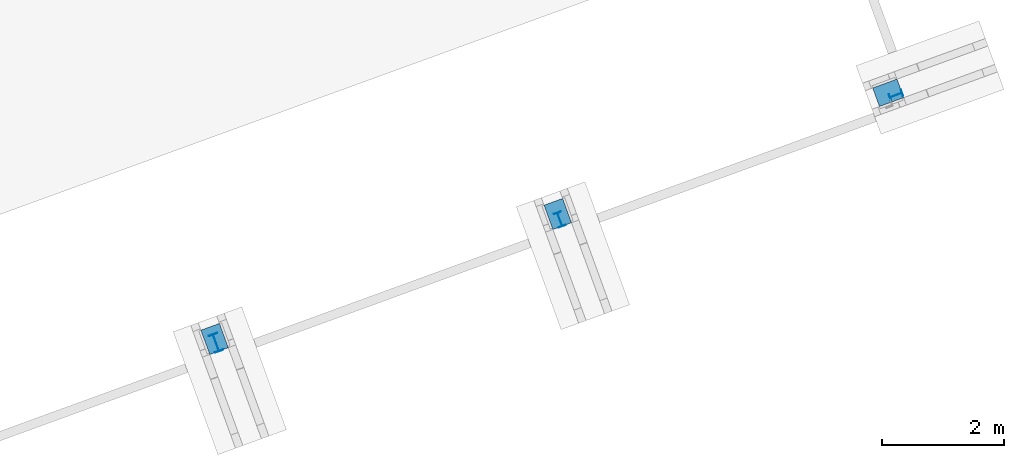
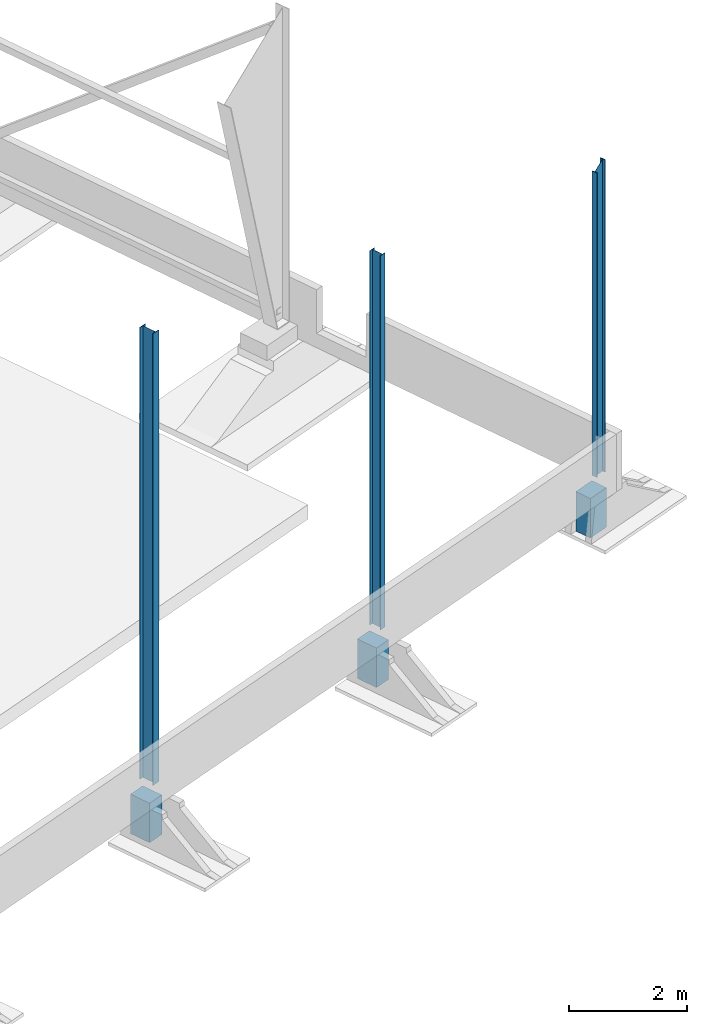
# One storey, part 2 of 20: 6 columns, 1 opening, 6 elements without a shape of their own.
"""IFC4 building model written with IfcOpenShell, lengths in millimetres."""

from ifc_helpers import new_model, si_unit, direction, frame, origin_with_axes, place, context, subcontext, project, spatial, line, indexed_curve, outline, extrude, material, element, aggregate, save


model = new_model("IFC4")

# Units and contexts
model_context = context("Model", 3, precision=0.2, world=frame((203566.813, 116264.779, 0.0), z_axis=(0.0, 0.0, 1.0), x_axis=(1.0, 0.0, 0.0)), true_north=direction((-0.9396138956, -0.3422363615)))
body_context = subcontext(model_context, "Body", "Model", "MODEL_VIEW")
ifc_project = project(units=[si_unit("LENGTHUNIT", "METRE", prefix="MILLI"), si_unit("AREAUNIT", "SQUARE_METRE"), si_unit("VOLUMEUNIT", "CUBIC_METRE"), si_unit("MASSUNIT", "GRAM", prefix="KILO"), si_unit("TIMEUNIT", "SECOND"), si_unit("PLANEANGLEUNIT", "RADIAN"), si_unit("SOLIDANGLEUNIT", "STERADIAN"), si_unit("THERMODYNAMICTEMPERATUREUNIT", "DEGREE_CELSIUS"), si_unit("LUMINOUSINTENSITYUNIT", "LUMEN")], contexts=[model_context])

# Site, building, storey
site_placement = place(None, origin_with_axes())
site = spatial("IfcSite", under=ifc_project, at=site_placement, Name="Nobelprojektet", CompositionType="ELEMENT")
building_placement = place(site_placement, origin_with_axes())
building = spatial("IfcBuilding", under=site, at=building_placement, Name="Hall B", CompositionType="ELEMENT")
storey_placement = place(building_placement, frame((0.0, 0.0, 1000.0), z_axis=(0.0, 0.0, 1.0), x_axis=(1.0, 0.0, 0.0)))
storey = spatial("IfcBuildingStorey", under=building, at=storey_placement, Name="Plan_1", CompositionType="ELEMENT", Elevation=1000.0)

# Assembly, column
assembly_1_placement = place(storey_placement, frame((184055.96429, 125367.21941, 131049.99996), z_axis=(0.3422371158, -0.9396136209, 1.3e-09), x_axis=(0.0, 0.0, 1.0)))
assembly_1 = element("IfcElementAssembly", 1, at=assembly_1_placement, inside=storey, Name="BALK", PredefinedType="NOTDEFINED")
ifc_material_1 = material(Name="C25/30", Category="CONCRETE")
column_1_placement = place(assembly_1_placement, origin_with_axes())
column_1 = element("IfcColumn", 2, at=column_1_placement, material=ifc_material_1, Name="BEF. GRUND", PredefinedType="NOTDEFINED", context=body_context, shape_type="SolidModel", body=[
    extrude(outline(indexed_curve([(-162.0, -212.5), (162.0, -212.5), (162.0, 212.5), (-162.0, 212.5)], segments=[line(1, 2, 3, 4, 1)])), frame((0.0, 0.0, 0.0), z_axis=(-1.0, 0.0, 0.0), x_axis=(0.0, 0.0, 1.0)), (0.0, 0.0, -1.0), 820.0),
])
aggregate(assembly_1, [column_1])

assembly_2_placement = place(storey_placement, frame((178626.93427, 123376.50567, 131049.99996), z_axis=(-0.9396136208, -0.3422371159, 0.0), x_axis=(0.0, 0.0, 1.0)))
assembly_2 = element("IfcElementAssembly", 3, at=assembly_2_placement, inside=storey, Name="BEF. GRUND", PredefinedType="NOTDEFINED")
column_2_placement = place(assembly_2_placement, origin_with_axes())
column_2 = element("IfcColumn", 4, at=column_2_placement, material=ifc_material_1, Name="BEF. GRUND", PredefinedType="NOTDEFINED", context=body_context, shape_type="SolidModel", body=[
    extrude(outline(indexed_curve([(-162.0, -212.5), (162.0, -212.5), (162.0, 212.5), (-162.0, 212.5)], segments=[line(1, 2, 3, 4, 1)])), frame((0.0, 0.0, 0.0), z_axis=(-1.0, 0.0, 0.0), x_axis=(0.0, 0.0, 1.0)), (0.0, 0.0, -1.0), 820.0),
])
aggregate(assembly_2, [column_2])

assembly_3_placement = place(storey_placement, frame((172989.25254, 121323.08297, 131049.99996), z_axis=(-0.9396136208, -0.3422371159, 0.0), x_axis=(0.0, 0.0, 1.0)))
assembly_3 = element("IfcElementAssembly", 5, at=assembly_3_placement, inside=storey, Name="BEF. GRUND", PredefinedType="NOTDEFINED")
column_3_placement = place(assembly_3_placement, origin_with_axes())
column_3 = element("IfcColumn", 6, at=column_3_placement, material=ifc_material_1, Name="BEF. GRUND", PredefinedType="NOTDEFINED", context=body_context, shape_type="SolidModel", body=[
    extrude(outline(indexed_curve([(-162.0, -212.5), (162.0, -212.5), (162.0, 212.5), (-162.0, 212.5)], segments=[line(1, 2, 3, 4, 1)])), frame((0.0, 0.0, 0.0), z_axis=(-1.0, 0.0, 0.0), x_axis=(0.0, 0.0, 1.0)), (0.0, 0.0, -1.0), 820.0),
])
aggregate(assembly_3, [column_3])

assembly_4_placement = place(storey_placement, frame((173012.35678, 121259.64551, 132195.00293), z_axis=(0.9396136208, 0.3422371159, 0.0), x_axis=(0.0, 0.0, 1.0)))
assembly_4 = element("IfcElementAssembly", 7, at=assembly_4_placement, inside=storey, Name="BEF. STOMME", PredefinedType="NOTDEFINED")
ifc_material_2 = material(Name="S355J2", Category="STEEL")
column_4_placement = place(assembly_4_placement, origin_with_axes())
column_4 = element("IfcColumn", 8, at=column_4_placement, material=ifc_material_2, Name="BEF. STOMME", PredefinedType="NOTDEFINED", context=body_context, shape_type="SolidModel", body=[
    extrude(outline(indexed_curve([(-75.0, -150.0), (75.0, -150.0), (75.0, -139.3), (3.55, -139.3), (3.55, 139.3), (75.0, 139.3), (75.0, 150.0), (-75.0, 150.0), (-75.0, 139.3), (-3.55, 139.3), (-3.55, -139.3), (-75.0, -139.3)], segments=[line(1, 2, 3, 4, 5, 6, 7, 8, 9, 10, 11, 12, 1)])), frame((0.0, 0.0, 0.0), z_axis=(-1.0, 0.0, 0.0), x_axis=(0.0, 0.0, 1.0)), (0.0, 0.0, -1.0), 9369.94934),
])
aggregate(assembly_4, [column_4])

assembly_5_placement = place(storey_placement, frame((178660.29845, 123284.87719, 132195.00293), z_axis=(0.9396136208, 0.3422371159, 0.0), x_axis=(0.0, 0.0, 1.0)))
assembly_5 = element("IfcElementAssembly", 9, at=assembly_5_placement, inside=storey, Name="BEF. STOMME", PredefinedType="NOTDEFINED")
column_5_placement = place(assembly_5_placement, origin_with_axes())
column_5 = element("IfcColumn", 10, at=column_5_placement, material=ifc_material_2, Name="BEF. STOMME", PredefinedType="NOTDEFINED", context=body_context, shape_type="SolidModel", body=[
    extrude(outline(indexed_curve([(-60.0, -120.0), (60.0, -120.0), (60.0, -110.2), (3.1, -110.2), (3.1, 110.2), (60.0, 110.2), (60.0, 120.0), (-60.0, 120.0), (-60.0, 110.2), (-3.1, 110.2), (-3.1, -110.2), (-60.0, -110.2)], segments=[line(1, 2, 3, 4, 5, 6, 7, 8, 9, 10, 11, 12, 1)])), frame((0.0, 0.0, 0.0), z_axis=(-1.0, 0.0, 0.0), x_axis=(0.0, 0.0, 1.0)), (0.0, 0.0, -1.0), 7762.25281),
])
aggregate(assembly_5, [column_5])

# Assembly, column, voiding feature
assembly_6_placement = place(storey_placement, frame((184184.36112, 125328.84423, 132179.99996), z_axis=(-0.3422371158, 0.9396136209, 1.3e-09), x_axis=(0.0, 0.0, 1.0)))
assembly_6 = element("IfcElementAssembly", 11, at=assembly_6_placement, inside=storey, Name="BEF. STOMME", PredefinedType="NOTDEFINED")
column_6_placement = place(assembly_6_placement, origin_with_axes())
column_6 = element("IfcColumn", 12, at=column_6_placement, material=ifc_material_2, Name="BEF. STOMME", PredefinedType="NOTDEFINED", context=body_context, shape_type="SolidModel", body=[
    extrude(outline(indexed_curve([(-55.0, -110.0), (55.0, -110.0), (55.0, -100.8), (2.95, -100.8), (2.95, 100.8), (55.0, 100.8), (55.0, 110.0), (-55.0, 110.0), (-55.0, 100.8), (-2.95, 100.8), (-2.95, -100.8), (-55.0, -100.8)], segments=[line(1, 2, 3, 4, 5, 6, 7, 8, 9, 10, 11, 12, 1)])), frame((0.0, 0.0, 0.0), z_axis=(-1.0, 0.0, 0.0), x_axis=(0.0, 0.0, 1.0)), (0.0, 0.0, -1.0), 6534.0),
])
voiding_feature_placement = place(column_6_placement, frame((6312.27469, -110.0058, 0.0), z_axis=(0.0, 0.0, -1.0), x_axis=(0.608784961, 0.793335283, -3e-10)))
element("IfcVoidingFeature", 13, at=voiding_feature_placement, cuts=column_6, Name="CUTPART", PredefinedType="HOLE", context=body_context, shape_type="SolidModel", body=[
    extrude(outline(indexed_curve([(0.0, 0.0), (277.31178, 0.0), (309.52139, 41.96629), (134.98763, 175.89898)], segments=[line(1, 2, 3, 4, 1)])), frame((0.0, 0.0, 57.5), z_axis=(0.0, 0.0, 1.0), x_axis=(1.0, 0.0, 0.0)), (0.0, 0.0, -1.0), 115.0),
])
aggregate(assembly_6, [column_6])

save(model, "model.ifc")
